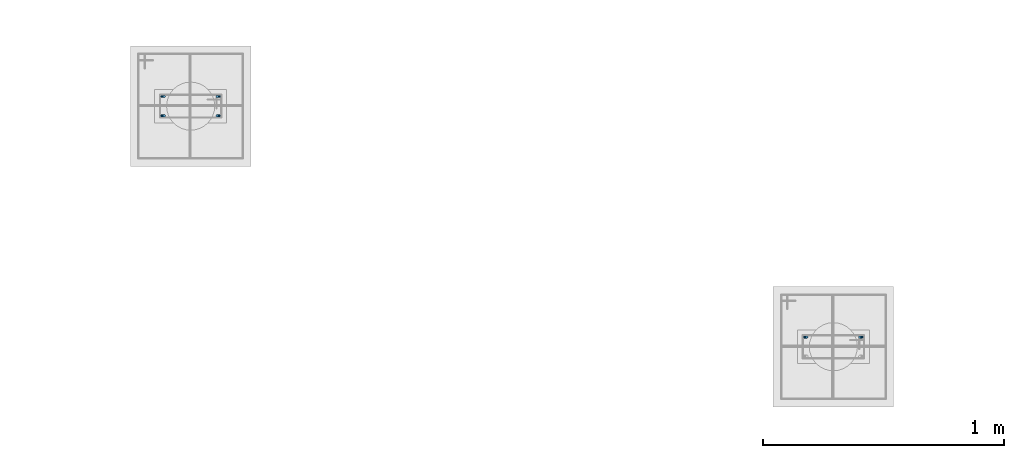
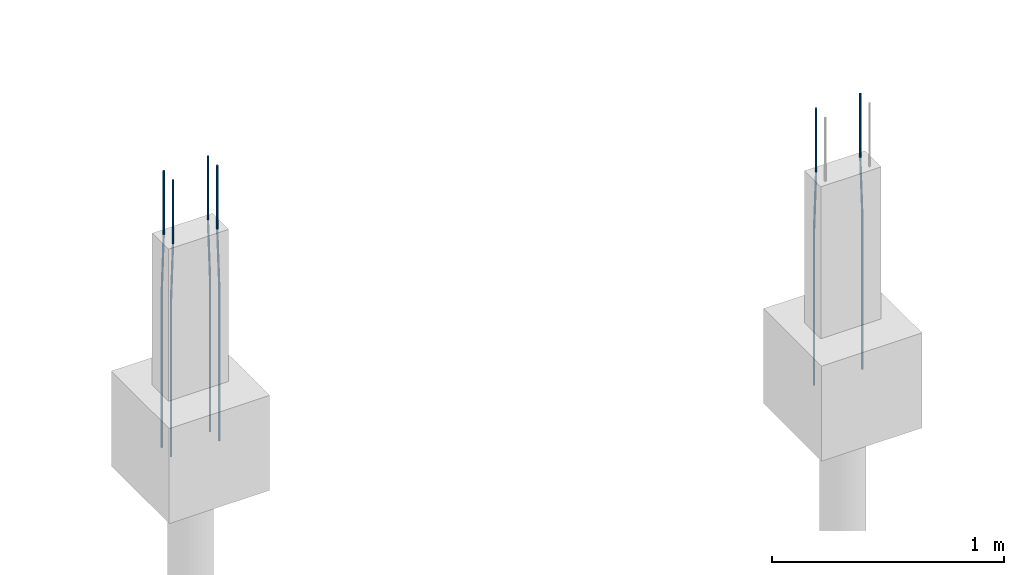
# One storey, part 52 of 119: 6 reinforcing bars.
"""IFC4 building model written with IfcOpenShell, lengths in centimetres."""

from ifc_helpers import new_model, entity, si_unit, derived_unit, frame, origin_with_axes, place, context, project, spatial, element, save


model = new_model("IFC4")

# Units and contexts
model_context = context("Model", 3, precision=1e-05, world=origin_with_axes(), identifier="Body")
ifc_project = project(units=[si_unit("LENGTHUNIT", "METRE", prefix="CENTI"), si_unit("VOLUMEUNIT", "CUBIC_METRE"), si_unit("AREAUNIT", "SQUARE_METRE"), si_unit("POWERUNIT", "WATT"), si_unit("LUMINOUSFLUXUNIT", "LUMEN"), si_unit("ELECTRICCURRENTUNIT", "AMPERE"), si_unit("PRESSUREUNIT", "PASCAL", prefix="KILO"), si_unit("MASSUNIT", "GRAM", prefix="KILO"), si_unit("PLANEANGLEUNIT", "RADIAN"), derived_unit("VOLUMETRICFLOWRATEUNIT", [(si_unit("LENGTHUNIT", "METRE"), 3), (si_unit("TIMEUNIT", "SECOND"), -1)])], contexts=[model_context])

# Site, building, storey
site_placement = place(None, frame((-4000.0, 0.0, 0.0), z_axis=(0.0, 0.0, 1.0), x_axis=(1.0, 0.0, 0.0)))
site = spatial("IfcSite", under=ifc_project, at=site_placement, Name="PADRÃO")
building_placement = place(site_placement, frame((0.0, 0.0, -14.0)))
building = spatial("IfcBuilding", under=site, at=building_placement, Name="CRECHE PRÉ-ESCOLA TIPO 2")
storey_placement = place(building_placement, origin_with_axes())
storey = spatial("IfcBuildingStorey", under=building, at=storey_placement, Name="FUNDAÇÃO", CompositionType="ELEMENT", Elevation=-14.0)

# Reinforcing bars
reinforcing_bar_1_placement = place(storey_placement, frame((1098.21, 4089.0, 33.3573001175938), z_axis=(0.0, 0.0, 1.0), x_axis=(1.0, 0.0, 0.0)))
element("IfcReinforcingBar", 1, at=reinforcing_bar_1_placement, inside=storey, Name="P19 - Longitudinal", BarLength=0.0, CrossSectionArea=7.853981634e-05, NominalDiameter=1.0, PredefinedType="MAIN", context=model_context, shape_type="AdvancedSweptSolid", body=[
    entity("IfcSweptDiskSolid", entity("IfcCompositeCurve", [entity("IfcCompositeCurveSegment", "CONTINUOUS", True, entity("IfcPolyline", [entity("IfcCartesianPoint", [-0.5, 0.0, -145.357300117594]), entity("IfcCartesianPoint", [-0.5, 0.0, -63.3573001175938])])), entity("IfcCompositeCurveSegment", "CONTINUOUS", True, entity("IfcPolyline", [entity("IfcCartesianPoint", [-0.5, 0.0, -63.3573001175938]), entity("IfcCartesianPoint", [0.5, 0.0, -33.3573001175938])])), entity("IfcCompositeCurveSegment", "CONTINUOUS", True, entity("IfcPolyline", [entity("IfcCartesianPoint", [0.5, 0.0, -33.3573001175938]), entity("IfcCartesianPoint", [0.5, 0.0, 0.0])]))], False), 0.5),
])
reinforcing_bar_2_placement = place(storey_placement, frame((1121.21, 4089.0, 33.3573001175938), z_axis=(0.0, 0.0, 1.0), x_axis=(1.0, 0.0, 0.0)))
element("IfcReinforcingBar", 2, at=reinforcing_bar_2_placement, inside=storey, Name="P19 - Longitudinal", BarLength=0.0, CrossSectionArea=7.853981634e-05, NominalDiameter=1.0, PredefinedType="MAIN", context=model_context, shape_type="AdvancedSweptSolid", body=[
    entity("IfcSweptDiskSolid", entity("IfcCompositeCurve", [entity("IfcCompositeCurveSegment", "CONTINUOUS", True, entity("IfcPolyline", [entity("IfcCartesianPoint", [0.5, 0.0, -145.357300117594]), entity("IfcCartesianPoint", [0.5, 0.0, -63.3573001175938])])), entity("IfcCompositeCurveSegment", "CONTINUOUS", True, entity("IfcPolyline", [entity("IfcCartesianPoint", [0.5, 0.0, -63.3573001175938]), entity("IfcCartesianPoint", [-0.5, 0.0, -33.3573001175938])])), entity("IfcCompositeCurveSegment", "CONTINUOUS", True, entity("IfcPolyline", [entity("IfcCartesianPoint", [-0.5, 0.0, -33.3573001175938]), entity("IfcCartesianPoint", [-0.5, 0.0, 0.0])]))], False), 0.5),
])
reinforcing_bar_3_placement = place(storey_placement, frame((1098.21, 4081.0, 33.3573001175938), z_axis=(0.0, 0.0, 1.0), x_axis=(1.0, 0.0, 0.0)))
element("IfcReinforcingBar", 3, at=reinforcing_bar_3_placement, inside=storey, Name="P19 - Longitudinal", BarLength=0.0, CrossSectionArea=7.853981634e-05, NominalDiameter=1.0, PredefinedType="MAIN", context=model_context, shape_type="AdvancedSweptSolid", body=[
    entity("IfcSweptDiskSolid", entity("IfcCompositeCurve", [entity("IfcCompositeCurveSegment", "CONTINUOUS", True, entity("IfcPolyline", [entity("IfcCartesianPoint", [-0.5, 0.0, -145.357300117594]), entity("IfcCartesianPoint", [-0.5, 0.0, -63.3573001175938])])), entity("IfcCompositeCurveSegment", "CONTINUOUS", True, entity("IfcPolyline", [entity("IfcCartesianPoint", [-0.5, 0.0, -63.3573001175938]), entity("IfcCartesianPoint", [0.5, 0.0, -33.3573001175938])])), entity("IfcCompositeCurveSegment", "CONTINUOUS", True, entity("IfcPolyline", [entity("IfcCartesianPoint", [0.5, 0.0, -33.3573001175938]), entity("IfcCartesianPoint", [0.5, 0.0, 0.0])]))], False), 0.5),
])
reinforcing_bar_4_placement = place(storey_placement, frame((1121.21, 4081.0, 33.3573001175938), z_axis=(0.0, 0.0, 1.0), x_axis=(1.0, 0.0, 0.0)))
element("IfcReinforcingBar", 4, at=reinforcing_bar_4_placement, inside=storey, Name="P19 - Longitudinal", BarLength=0.0, CrossSectionArea=7.853981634e-05, NominalDiameter=1.0, PredefinedType="MAIN", context=model_context, shape_type="AdvancedSweptSolid", body=[
    entity("IfcSweptDiskSolid", entity("IfcCompositeCurve", [entity("IfcCompositeCurveSegment", "CONTINUOUS", True, entity("IfcPolyline", [entity("IfcCartesianPoint", [0.5, 0.0, -145.357300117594]), entity("IfcCartesianPoint", [0.5, 0.0, -63.3573001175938])])), entity("IfcCompositeCurveSegment", "CONTINUOUS", True, entity("IfcPolyline", [entity("IfcCartesianPoint", [0.5, 0.0, -63.3573001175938]), entity("IfcCartesianPoint", [-0.5, 0.0, -33.3573001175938])])), entity("IfcCompositeCurveSegment", "CONTINUOUS", True, entity("IfcPolyline", [entity("IfcCartesianPoint", [-0.5, 0.0, -33.3573001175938]), entity("IfcCartesianPoint", [-0.5, 0.0, 0.0])]))], False), 0.5),
])
reinforcing_bar_5_placement = place(storey_placement, frame((1365.34, 3989.0, 33.3573001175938), z_axis=(0.0, 0.0, 1.0), x_axis=(1.0, 0.0, 0.0)))
element("IfcReinforcingBar", 5, at=reinforcing_bar_5_placement, inside=storey, Name="P25 - Longitudinal", BarLength=0.0, CrossSectionArea=7.853981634e-05, NominalDiameter=1.0, PredefinedType="MAIN", context=model_context, shape_type="AdvancedSweptSolid", body=[
    entity("IfcSweptDiskSolid", entity("IfcCompositeCurve", [entity("IfcCompositeCurveSegment", "CONTINUOUS", True, entity("IfcPolyline", [entity("IfcCartesianPoint", [-0.5, 0.0, -145.357300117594]), entity("IfcCartesianPoint", [-0.5, 0.0, -63.3573001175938])])), entity("IfcCompositeCurveSegment", "CONTINUOUS", True, entity("IfcPolyline", [entity("IfcCartesianPoint", [-0.5, 0.0, -63.3573001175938]), entity("IfcCartesianPoint", [0.5, 0.0, -33.3573001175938])])), entity("IfcCompositeCurveSegment", "CONTINUOUS", True, entity("IfcPolyline", [entity("IfcCartesianPoint", [0.5, 0.0, -33.3573001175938]), entity("IfcCartesianPoint", [0.5, 0.0, 0.0])]))], False), 0.5),
])
reinforcing_bar_6_placement = place(storey_placement, frame((1388.34, 3989.0, 33.3573001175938), z_axis=(0.0, 0.0, 1.0), x_axis=(1.0, 0.0, 0.0)))
element("IfcReinforcingBar", 6, at=reinforcing_bar_6_placement, inside=storey, Name="P25 - Longitudinal", BarLength=0.0, CrossSectionArea=7.853981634e-05, NominalDiameter=1.0, PredefinedType="MAIN", context=model_context, shape_type="AdvancedSweptSolid", body=[
    entity("IfcSweptDiskSolid", entity("IfcCompositeCurve", [entity("IfcCompositeCurveSegment", "CONTINUOUS", True, entity("IfcPolyline", [entity("IfcCartesianPoint", [0.5, 0.0, -145.357300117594]), entity("IfcCartesianPoint", [0.5, 0.0, -63.3573001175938])])), entity("IfcCompositeCurveSegment", "CONTINUOUS", True, entity("IfcPolyline", [entity("IfcCartesianPoint", [0.5, 0.0, -63.3573001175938]), entity("IfcCartesianPoint", [-0.5, 0.0, -33.3573001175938])])), entity("IfcCompositeCurveSegment", "CONTINUOUS", True, entity("IfcPolyline", [entity("IfcCartesianPoint", [-0.5, 0.0, -33.3573001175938]), entity("IfcCartesianPoint", [-0.5, 0.0, 0.0])]))], False), 0.5),
])

save(model, "model.ifc")
